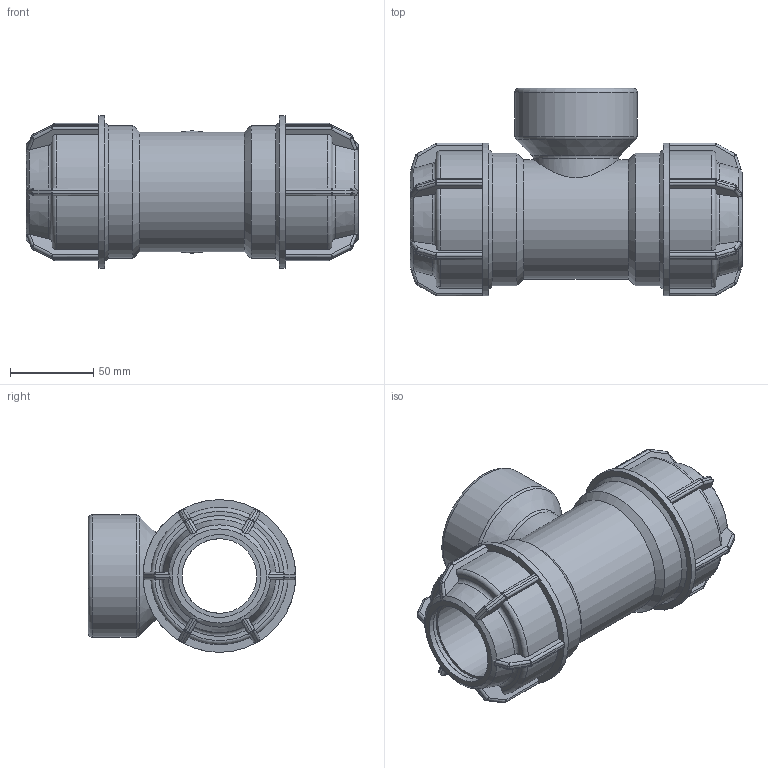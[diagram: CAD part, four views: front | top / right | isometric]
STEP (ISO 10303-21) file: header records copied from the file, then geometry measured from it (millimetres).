
FILE_DESCRIPTION(/* description */ ('PLASSON L.14 TEE FEMALE ADAPTOR (SILVER) 50 x 2" x 50'),/* implementation_level */ '2;1');
FILE_NAME(/* name */ 'C:\Dropbox\KIMPROJECTS-Inventor\99-16-3568-Processing\Silver Fittings\141400\141400050020.ipt.stp',/* time_stamp */ '2018-04-16T11:15:57+03:00',/* author */ ('KIM'),/* organization */ (''),/* preprocessor_version */ 'ST-DEVELOPER v15.6',/* originating_system */ 'Autodesk Inventor 2015',/* authorisation */ '');
FILE_SCHEMA (('AUTOMOTIVE_DESIGN { 1 0 10303 214 3 1 1 }'));
Length unit declared in the file: millimetre
Products named in the file (1): 141400050020
Bounding box: 200 x 125 x 92 mm (x, y, z)
Volume: 608145.8 mm3; surface area: 114986.6 mm2
Topology: 1 solids, 1 shells, 416 faces, 1001 edges, 573 vertices
Faces by surface type: plane 196, cylinder 122, sphere 48, torus 31, cone 19
Full cylindrical faces by diameter (mm): 45 x2, 50 x4, 51.557 x1, 56.656 x1, 72 x1, 73.653 x1, 80 x2, 92 x2
Entity records: 11992 total; most frequent: CARTESIAN_POINT 3086, DIRECTION 1876, ORIENTED_EDGE 1824, EDGE_CURVE 912, AXIS2_PLACEMENT_3D 758, VERTEX_POINT 540, EDGE_LOOP 450, FACE_OUTER_BOUND 410
